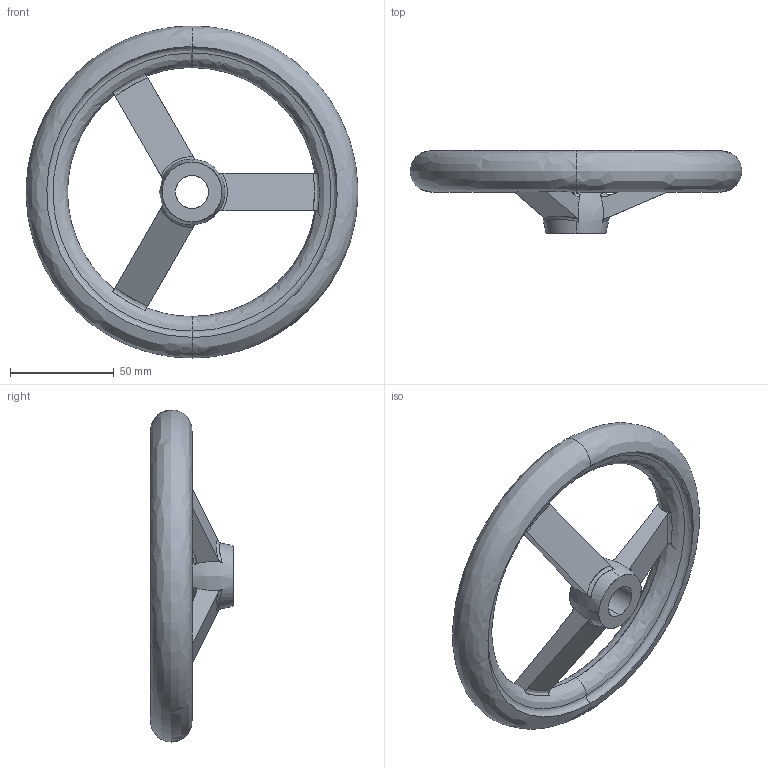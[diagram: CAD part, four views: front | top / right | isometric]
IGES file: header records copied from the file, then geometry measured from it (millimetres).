
Start section: SolidWorks IGES file using analytic representation for surfaces
Global section: file name: C:\Users\IanO\Desktop\Temp File\Process pending\77120_v2\77120_v2_20171108_IGES\77120.W0021.igs; native system: SolidWorks 2017; preprocessor: SolidWorks 2017; author: IanO; date: 171108.084042; units: millimetre
Bounding box: 160 x 40 x 160 mm (x, y, z)
Surface area: 38548.1 mm2 (no closed solid volume)
Topology: 0 solids, 0 shells, 51 faces, 907 edges, 899 vertices
Faces by surface type: bspline 49, revolution 2
